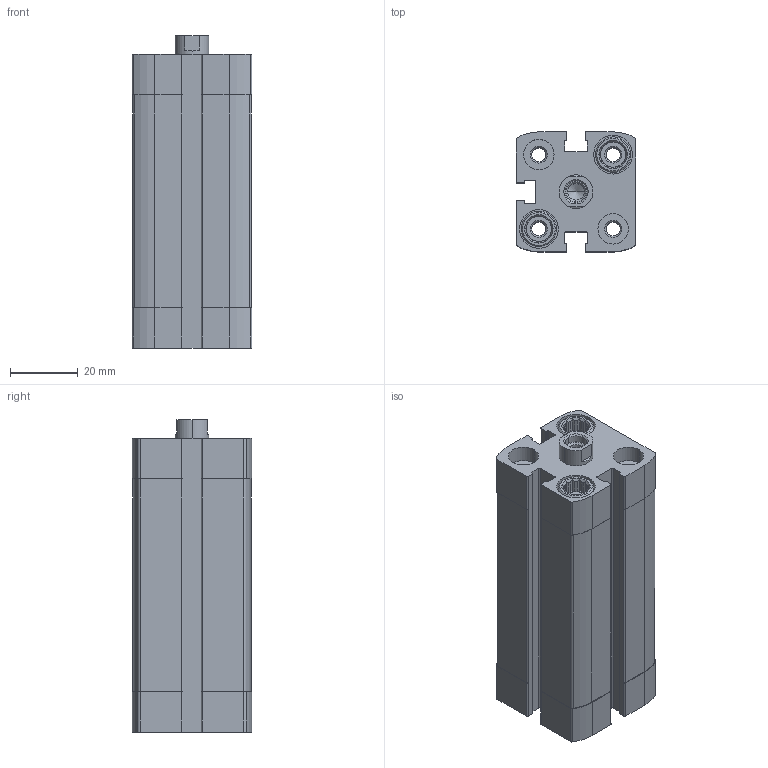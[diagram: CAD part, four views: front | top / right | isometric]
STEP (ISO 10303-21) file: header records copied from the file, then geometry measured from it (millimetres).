
FILE_DESCRIPTION (( 'STEP AP203' ), '1' );
FILE_NAME ('CCN20-50F.STEP', '2017-03-28T15:32:25', ( '' ), ( '' ), 'SwSTEP 2.0', 'SolidWorks 2016', '' );
FILE_SCHEMA (( 'CONFIG_CONTROL_DESIGN' ));
Length unit declared in the file: millimetre
Products named in the file (3): CCN-50--(Z); CCN-50-_(KS); CCN20-50F
Assembly tree (2 placements, depth 2):
  CCN20-50F
    CCN-50--(Z)
    CCN-50-_(KS)
Bounding box: 35.5 x 35.5 x 92.5 mm (x, y, z)
Volume: 76597.2 mm3; surface area: 33176.9 mm2
Topology: 2 solids, 2 shells, 407 faces, 1080 edges, 707 vertices
Faces by surface type: plane 231, cylinder 134, cone 42
Entity records: 13121 total; most frequent: CARTESIAN_POINT 2491, DIRECTION 2216, ORIENTED_EDGE 2156, EDGE_CURVE 1078, AXIS2_PLACEMENT_3D 824, VERTEX_POINT 707, VECTOR 568, LINE 568
